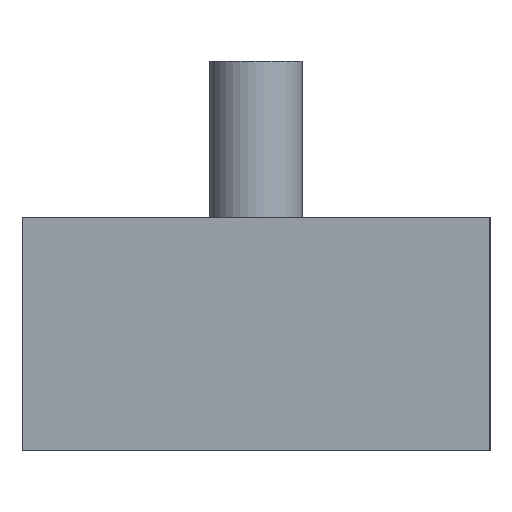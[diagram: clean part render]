
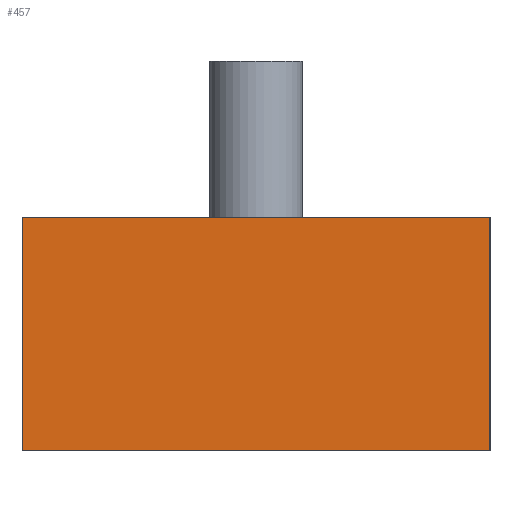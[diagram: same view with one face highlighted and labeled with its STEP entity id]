
A CAD part, left-side view. The second image highlights one B-rep face of the part: STEP entity #457.
In plain terms, the highlighted planar face has unit normal (-1, 0, 0).
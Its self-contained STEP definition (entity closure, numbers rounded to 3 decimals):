
#339=CARTESIAN_POINT('',(-30.,-15.,-15.));
#340=VERTEX_POINT('',#339);
#357=CARTESIAN_POINT('',(-30.,-15.,0.0));
#358=VERTEX_POINT('',#357);
#365=CARTESIAN_POINT('',(-30.,-15.,0.0));
#366=DIRECTION('',(0.0,0.0,-1.0));
#367=VECTOR('',#366,15.);
#368=LINE('',#365,#367);
#369=EDGE_CURVE('',#358,#340,#368,.T.);
#410=CARTESIAN_POINT('',(-30.,15.,-15.));
#411=VERTEX_POINT('',#410);
#418=CARTESIAN_POINT('',(-30.,15.,0.0));
#419=VERTEX_POINT('',#418);
#420=CARTESIAN_POINT('',(-30.,15.,0.0));
#421=DIRECTION('',(0.0,0.0,-1.0));
#422=VECTOR('',#421,15.);
#423=LINE('',#420,#422);
#424=EDGE_CURVE('',#419,#411,#423,.T.);
#436=CARTESIAN_POINT('',(-30.,15.,0.0));
#437=DIRECTION('',(-1.0,0.0,0.0));
#438=DIRECTION('',(0.0,0.0,1.0));
#439=AXIS2_PLACEMENT_3D('',#436,#437,#438);
#440=PLANE('',#439);
#441=CARTESIAN_POINT('',(-30.,15.,-15.));
#442=DIRECTION('',(0.0,-1.0,0.0));
#443=VECTOR('',#442,30.);
#444=LINE('',#441,#443);
#445=EDGE_CURVE('',#411,#340,#444,.T.);
#446=ORIENTED_EDGE('',*,*,#445,.T.);
#447=ORIENTED_EDGE('',*,*,#369,.F.);
#448=CARTESIAN_POINT('',(-30.,-15.,0.0));
#449=DIRECTION('',(0.0,1.0,0.0));
#450=VECTOR('',#449,30.);
#451=LINE('',#448,#450);
#452=EDGE_CURVE('',#358,#419,#451,.T.);
#453=ORIENTED_EDGE('',*,*,#452,.T.);
#454=ORIENTED_EDGE('',*,*,#424,.T.);
#455=EDGE_LOOP('',(#446,#447,#453,#454));
#456=FACE_OUTER_BOUND('',#455,.T.);
#457=ADVANCED_FACE('',(#456),#440,.T.);
